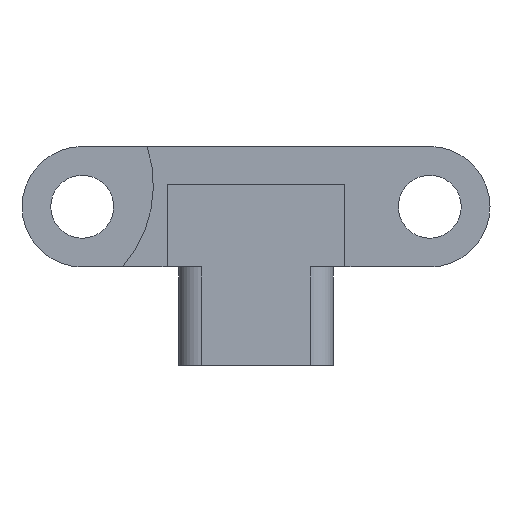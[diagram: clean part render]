
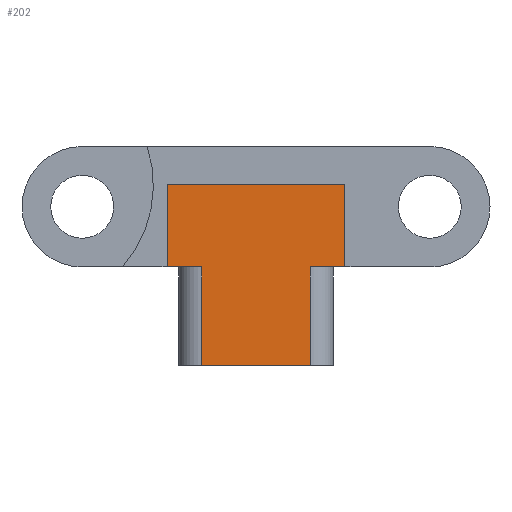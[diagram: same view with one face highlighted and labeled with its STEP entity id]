
A CAD part, front view. The second image highlights one B-rep face of the part: STEP entity #202.
In plain terms, the highlighted planar face has unit normal (0, -1, 0).
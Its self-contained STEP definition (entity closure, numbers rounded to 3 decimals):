
#98=CARTESIAN_POINT('Vertex',(-3.971,-21.25,-11.6)) ;
#101=CARTESIAN_POINT('Line Origine',(-3.971,-21.25,-5.)) ;
#105=CARTESIAN_POINT('Vertex',(-3.971,-21.25,-4.4)) ;
#124=CARTESIAN_POINT('Axis2P3D Location',(-6.5,-21.25,-4.4)) ;
#129=CARTESIAN_POINT('Line Origine',(0.,-21.25,-11.6)) ;
#133=CARTESIAN_POINT('Vertex',(3.971,-21.25,-11.6)) ;
#136=CARTESIAN_POINT('Line Origine',(3.971,-21.25,-8.)) ;
#140=CARTESIAN_POINT('Vertex',(3.971,-21.25,-4.4)) ;
#143=CARTESIAN_POINT('Line Origine',(4.814,-21.25,-4.4)) ;
#147=CARTESIAN_POINT('Vertex',(5.657,-21.25,-4.4)) ;
#150=CARTESIAN_POINT('Line Origine',(6.078,-21.25,-4.4)) ;
#154=CARTESIAN_POINT('Vertex',(6.5,-21.25,-4.4)) ;
#157=CARTESIAN_POINT('Line Origine',(6.5,-21.25,-1.4)) ;
#161=CARTESIAN_POINT('Vertex',(6.5,-21.25,1.6)) ;
#164=CARTESIAN_POINT('Line Origine',(0.,-21.25,1.6)) ;
#168=CARTESIAN_POINT('Vertex',(-6.5,-21.25,1.6)) ;
#171=CARTESIAN_POINT('Line Origine',(-6.5,-21.25,-1.4)) ;
#175=CARTESIAN_POINT('Vertex',(-6.5,-21.25,-4.4)) ;
#178=CARTESIAN_POINT('Line Origine',(-6.078,-21.25,-4.4)) ;
#182=CARTESIAN_POINT('Vertex',(-5.657,-21.25,-4.4)) ;
#185=CARTESIAN_POINT('Line Origine',(-4.814,-21.25,-4.4)) ;
#102=DIRECTION('Vector Direction',(0.,0.,1.)) ;
#125=DIRECTION('Axis2P3D Direction',(-0.,-1.,0.)) ;
#126=DIRECTION('Axis2P3D XDirection',(1.,-0.,0.)) ;
#130=DIRECTION('Vector Direction',(-1.,0.,0.)) ;
#137=DIRECTION('Vector Direction',(0.,0.,1.)) ;
#144=DIRECTION('Vector Direction',(1.,0.,0.)) ;
#151=DIRECTION('Vector Direction',(1.,0.,0.)) ;
#158=DIRECTION('Vector Direction',(0.,0.,1.)) ;
#165=DIRECTION('Vector Direction',(1.,0.,0.)) ;
#172=DIRECTION('Vector Direction',(0.,0.,1.)) ;
#179=DIRECTION('Vector Direction',(1.,0.,0.)) ;
#186=DIRECTION('Vector Direction',(1.,0.,0.)) ;
#127=AXIS2_PLACEMENT_3D('Plane Axis2P3D',#124,#125,#126) ;
#191=ORIENTED_EDGE('',*,*,#135,.T.) ;
#192=ORIENTED_EDGE('',*,*,#142,.F.) ;
#193=ORIENTED_EDGE('',*,*,#149,.F.) ;
#194=ORIENTED_EDGE('',*,*,#156,.T.) ;
#195=ORIENTED_EDGE('',*,*,#163,.T.) ;
#196=ORIENTED_EDGE('',*,*,#170,.F.) ;
#197=ORIENTED_EDGE('',*,*,#177,.F.) ;
#198=ORIENTED_EDGE('',*,*,#184,.T.) ;
#199=ORIENTED_EDGE('',*,*,#189,.F.) ;
#200=ORIENTED_EDGE('',*,*,#107,.F.) ;
#103=VECTOR('Line Direction',#102,1.) ;
#131=VECTOR('Line Direction',#130,1.) ;
#138=VECTOR('Line Direction',#137,1.) ;
#145=VECTOR('Line Direction',#144,1.) ;
#152=VECTOR('Line Direction',#151,1.) ;
#159=VECTOR('Line Direction',#158,1.) ;
#166=VECTOR('Line Direction',#165,1.) ;
#173=VECTOR('Line Direction',#172,1.) ;
#180=VECTOR('Line Direction',#179,1.) ;
#187=VECTOR('Line Direction',#186,1.) ;
#202=ADVANCED_FACE('PartBody',(#201),#128,.T.) ;
#107=EDGE_CURVE('',#99,#106,#104,.T.) ;
#135=EDGE_CURVE('',#99,#134,#132,.F.) ;
#142=EDGE_CURVE('',#141,#134,#139,.F.) ;
#149=EDGE_CURVE('',#148,#141,#146,.F.) ;
#156=EDGE_CURVE('',#148,#155,#153,.T.) ;
#163=EDGE_CURVE('',#155,#162,#160,.T.) ;
#170=EDGE_CURVE('',#169,#162,#167,.T.) ;
#177=EDGE_CURVE('',#176,#169,#174,.T.) ;
#184=EDGE_CURVE('',#176,#183,#181,.T.) ;
#189=EDGE_CURVE('',#106,#183,#188,.F.) ;
#190=EDGE_LOOP('',(#191,#192,#193,#194,#195,#196,#197,#198,#199,#200)) ;
#201=FACE_OUTER_BOUND('',#190,.T.) ;
#104=LINE('Line',#101,#103) ;
#132=LINE('Line',#129,#131) ;
#139=LINE('Line',#136,#138) ;
#146=LINE('Line',#143,#145) ;
#153=LINE('Line',#150,#152) ;
#160=LINE('Line',#157,#159) ;
#167=LINE('Line',#164,#166) ;
#174=LINE('Line',#171,#173) ;
#181=LINE('Line',#178,#180) ;
#188=LINE('Line',#185,#187) ;
#128=PLANE('',#127) ;
#99=VERTEX_POINT('',#98) ;
#106=VERTEX_POINT('',#105) ;
#134=VERTEX_POINT('',#133) ;
#141=VERTEX_POINT('',#140) ;
#148=VERTEX_POINT('',#147) ;
#155=VERTEX_POINT('',#154) ;
#162=VERTEX_POINT('',#161) ;
#169=VERTEX_POINT('',#168) ;
#176=VERTEX_POINT('',#175) ;
#183=VERTEX_POINT('',#182) ;
